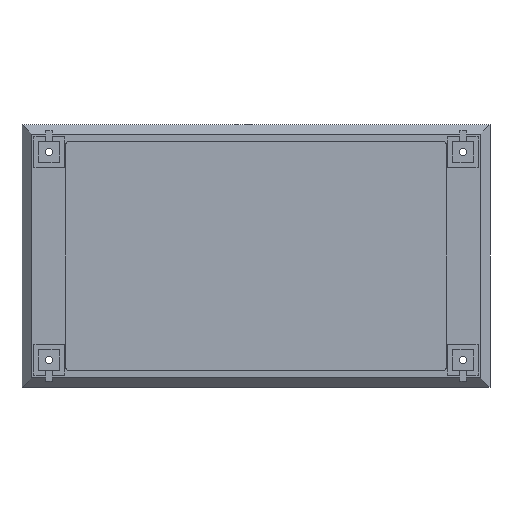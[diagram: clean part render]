
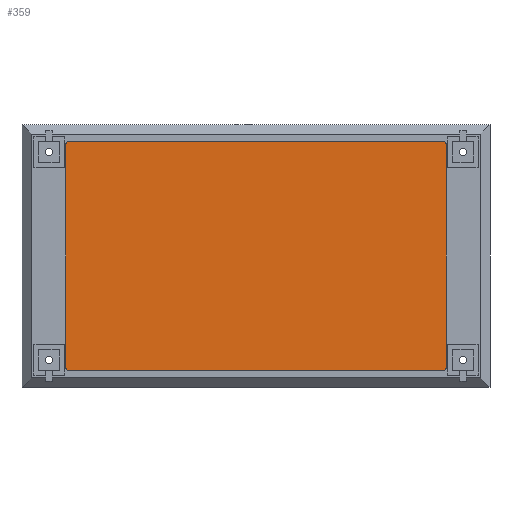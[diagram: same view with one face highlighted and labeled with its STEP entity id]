
A CAD part, front view. The second image highlights one B-rep face of the part: STEP entity #359.
In plain terms, the highlighted planar face has unit normal (0, -1, 0).
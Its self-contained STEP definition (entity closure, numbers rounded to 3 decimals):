
#24 = CIRCLE ( 'NONE', #42, 1.5 ) ;
#42 = AXIS2_PLACEMENT_3D ( 'NONE', #1718, #1158, #1278 ) ;
#88 = DIRECTION ( 'NONE',  ( 0., 0., -1. ) ) ;
#278 = PLANE ( 'NONE',  #2929 ) ;
#359 = ADVANCED_FACE ( 'NONE', ( #3797 ), #278, .T. ) ;
#521 = ORIENTED_EDGE ( 'NONE', *, *, #1581, .T. ) ;
#627 = EDGE_CURVE ( 'NONE', #6375, #2589, #3709, .T. ) ;
#663 = CARTESIAN_POINT ( 'NONE',  ( -81.35, 1.4, -49. ) ) ;
#708 = CIRCLE ( 'NONE', #5853, 1.5 ) ;
#977 = VERTEX_POINT ( 'NONE', #1480 ) ;
#1012 = VECTOR ( 'NONE', #4468, 1000. ) ;
#1138 = EDGE_CURVE ( 'NONE', #1835, #4290, #1432, .T. ) ;
#1158 = DIRECTION ( 'NONE',  ( 0., -1., 0. ) ) ;
#1172 = DIRECTION ( 'NONE',  ( 0., -1., 0. ) ) ;
#1246 = AXIS2_PLACEMENT_3D ( 'NONE', #4196, #1172, #4701 ) ;
#1255 = LINE ( 'NONE', #663, #6295 ) ;
#1278 = DIRECTION ( 'NONE',  ( 0., 0., -1. ) ) ;
#1432 = LINE ( 'NONE', #3598, #5310 ) ;
#1480 = CARTESIAN_POINT ( 'NONE',  ( 79.85, 1.4, 49. ) ) ;
#1581 = EDGE_CURVE ( 'NONE', #4290, #5060, #24, .T. ) ;
#1688 = EDGE_LOOP ( 'NONE', ( #4419, #1800, #3572, #1992, #6237, #521, #1916, #4706 ) ) ;
#1718 = CARTESIAN_POINT ( 'NONE',  ( -79.85, 1.4, -47.5 ) ) ;
#1800 = ORIENTED_EDGE ( 'NONE', *, *, #6458, .T. ) ;
#1806 = CARTESIAN_POINT ( 'NONE',  ( -81.35, 1.4, -47.5 ) ) ;
#1835 = VERTEX_POINT ( 'NONE', #3256 ) ;
#1884 = CARTESIAN_POINT ( 'NONE',  ( 81.35, 1.4, 47.5 ) ) ;
#1914 = CARTESIAN_POINT ( 'NONE',  ( -79.85, 1.4, 47.5 ) ) ;
#1916 = ORIENTED_EDGE ( 'NONE', *, *, #5467, .T. ) ;
#1992 = ORIENTED_EDGE ( 'NONE', *, *, #3864, .T. ) ;
#2042 = CARTESIAN_POINT ( 'NONE',  ( 81.35, 1.4, 49. ) ) ;
#2052 = VERTEX_POINT ( 'NONE', #3175 ) ;
#2167 = VERTEX_POINT ( 'NONE', #3022 ) ;
#2169 = DIRECTION ( 'NONE',  ( 0., -1., 0. ) ) ;
#2264 = CIRCLE ( 'NONE', #4652, 1.5 ) ;
#2424 = DIRECTION ( 'NONE',  ( 0., 0., -1. ) ) ;
#2589 = VERTEX_POINT ( 'NONE', #1884 ) ;
#2929 = AXIS2_PLACEMENT_3D ( 'NONE', #5868, #4854, #4337 ) ;
#3022 = CARTESIAN_POINT ( 'NONE',  ( 79.85, 1.4, -49. ) ) ;
#3133 = EDGE_CURVE ( 'NONE', #977, #2052, #3394, .T. ) ;
#3175 = CARTESIAN_POINT ( 'NONE',  ( -79.85, 1.4, 49. ) ) ;
#3238 = CARTESIAN_POINT ( 'NONE',  ( -79.85, 1.4, -49. ) ) ;
#3256 = CARTESIAN_POINT ( 'NONE',  ( -81.35, 1.4, 47.5 ) ) ;
#3394 = LINE ( 'NONE', #5257, #4576 ) ;
#3572 = ORIENTED_EDGE ( 'NONE', *, *, #3133, .T. ) ;
#3598 = CARTESIAN_POINT ( 'NONE',  ( -81.35, 1.4, 49. ) ) ;
#3709 = LINE ( 'NONE', #2042, #1012 ) ;
#3797 = FACE_OUTER_BOUND ( 'NONE', #1688, .T. ) ;
#3864 = EDGE_CURVE ( 'NONE', #2052, #1835, #708, .T. ) ;
#4196 = CARTESIAN_POINT ( 'NONE',  ( 79.85, 1.4, 47.5 ) ) ;
#4290 = VERTEX_POINT ( 'NONE', #1806 ) ;
#4337 = DIRECTION ( 'NONE',  ( 0., 0., -1. ) ) ;
#4419 = ORIENTED_EDGE ( 'NONE', *, *, #627, .T. ) ;
#4468 = DIRECTION ( 'NONE',  ( 0., 0., 1. ) ) ;
#4576 = VECTOR ( 'NONE', #6233, 1000. ) ;
#4652 = AXIS2_PLACEMENT_3D ( 'NONE', #5208, #2169, #5699 ) ;
#4701 = DIRECTION ( 'NONE',  ( 0., 0., -1. ) ) ;
#4706 = ORIENTED_EDGE ( 'NONE', *, *, #5852, .T. ) ;
#4854 = DIRECTION ( 'NONE',  ( 0., -1., 0. ) ) ;
#5060 = VERTEX_POINT ( 'NONE', #3238 ) ;
#5208 = CARTESIAN_POINT ( 'NONE',  ( 79.85, 1.4, -47.5 ) ) ;
#5257 = CARTESIAN_POINT ( 'NONE',  ( -81.35, 1.4, 49. ) ) ;
#5310 = VECTOR ( 'NONE', #88, 1000. ) ;
#5446 = DIRECTION ( 'NONE',  ( 0., -1., 0. ) ) ;
#5467 = EDGE_CURVE ( 'NONE', #5060, #2167, #1255, .T. ) ;
#5698 = DIRECTION ( 'NONE',  ( 1., 0., 0. ) ) ;
#5699 = DIRECTION ( 'NONE',  ( 0., 0., -1. ) ) ;
#5852 = EDGE_CURVE ( 'NONE', #2167, #6375, #2264, .T. ) ;
#5853 = AXIS2_PLACEMENT_3D ( 'NONE', #1914, #5446, #2424 ) ;
#5868 = CARTESIAN_POINT ( 'NONE',  ( 0., 1.4, 0. ) ) ;
#6043 = CIRCLE ( 'NONE', #1246, 1.5 ) ;
#6139 = CARTESIAN_POINT ( 'NONE',  ( 81.35, 1.4, -47.5 ) ) ;
#6233 = DIRECTION ( 'NONE',  ( -1., 0., 0. ) ) ;
#6237 = ORIENTED_EDGE ( 'NONE', *, *, #1138, .T. ) ;
#6295 = VECTOR ( 'NONE', #5698, 1000. ) ;
#6375 = VERTEX_POINT ( 'NONE', #6139 ) ;
#6458 = EDGE_CURVE ( 'NONE', #2589, #977, #6043, .T. ) ;
